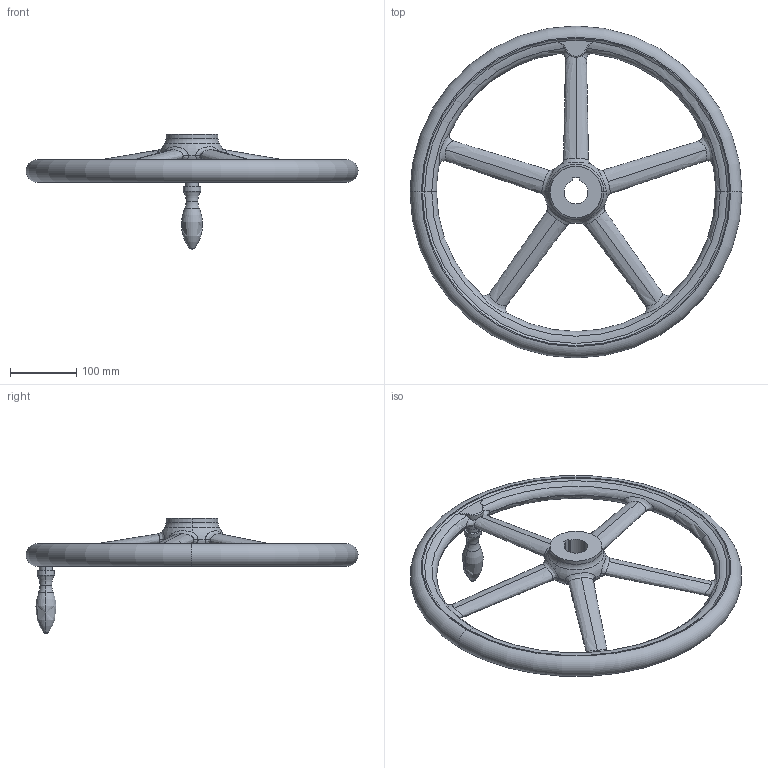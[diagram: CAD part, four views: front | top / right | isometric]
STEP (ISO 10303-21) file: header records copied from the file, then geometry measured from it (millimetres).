
FILE_DESCRIPTION (( 'STEP AP214' ), '1' );
FILE_NAME ('950-AL-500-K36-D.step', '2020-05-18T06:55:08', ( '' ), ( '' ), 'SwSTEP 2.0', 'SolidWorks 2019', '' );
FILE_SCHEMA (( 'AUTOMOTIVE_DESIGN' ));
Length unit declared in the file: millimetre
Products named in the file (1): 950-AL-500-K36-D
Bounding box: 500 x 500 x 173.41 mm (x, y, z)
Volume: 2121690.5 mm3; surface area: 268420.3 mm2
Topology: 1 solids, 1 shells, 99 faces, 265 edges, 161 vertices
Faces by surface type: torus 38, bspline 30, cylinder 15, plane 10, cone 4, sphere 2
Entity records: 12740 total; most frequent: CARTESIAN_POINT 10327, ORIENTED_EDGE 530, DIRECTION 430, EDGE_CURVE 265, AXIS2_PLACEMENT_3D 202, VERTEX_POINT 161, CIRCLE 132, B_SPLINE_CURVE_WITH_KNOTS 107
